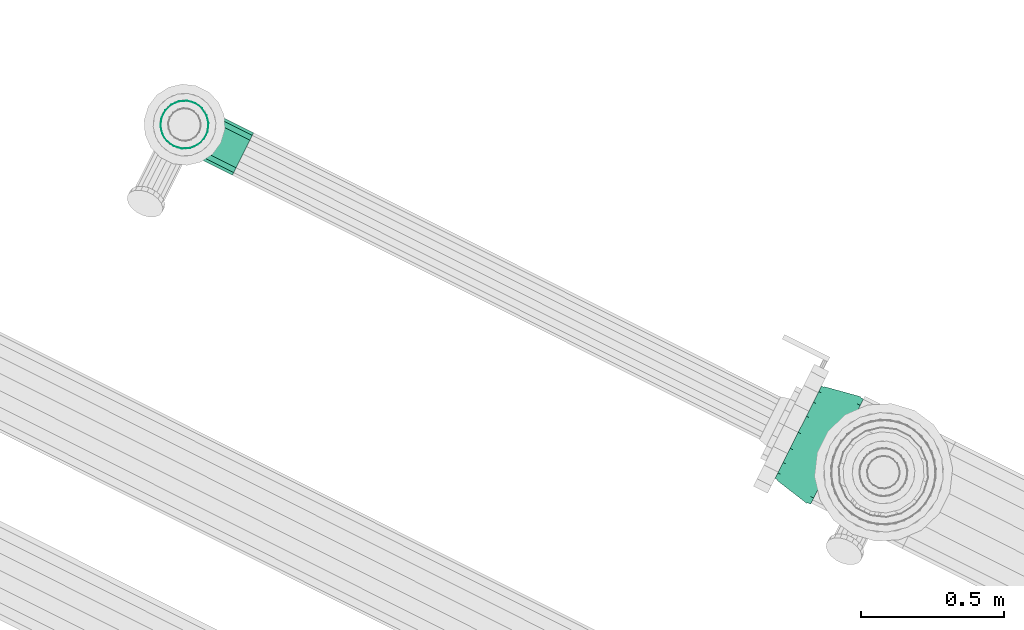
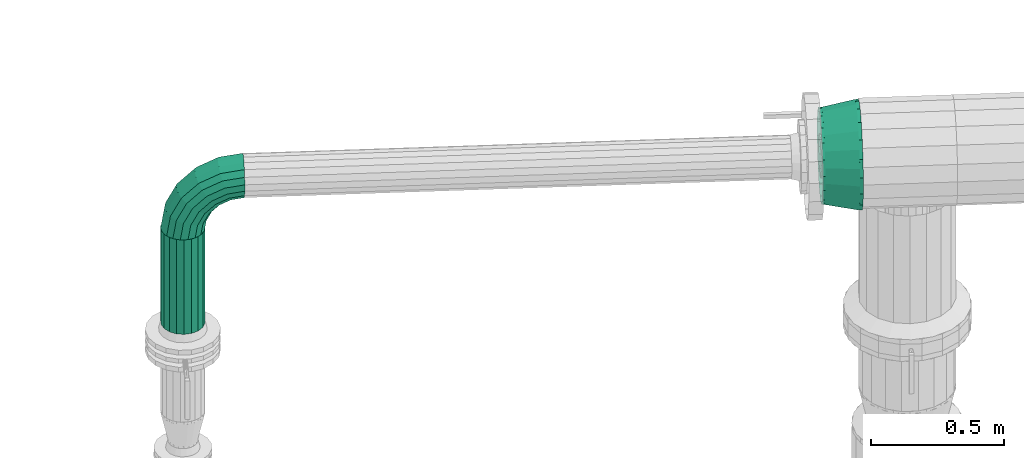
# One storey, part 68 of 152: 2 flow segments, 1 flow fitting.
"""IFC2X3 building model written with IfcOpenShell, lengths in metres."""

from ifc_helpers import new_model, si_unit, derived_unit, direction, frame, origin, place, context, subcontext, project, spatial, face_set, surface_model, source, transform, mapped, material, type_object, type_shapes, element, save


model = new_model("IFC2X3")

# Units and contexts
model_context = context("Model", 3, precision=5.2338327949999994e-05, world=origin(), true_north=direction((0.0, 1.0)))
body_context = subcontext(model_context, "Body", "Model", "MODEL_VIEW")
ifc_project = project(units=[si_unit("LENGTHUNIT", "METRE"), si_unit("AREAUNIT", "SQUARE_METRE"), si_unit("VOLUMEUNIT", "CUBIC_METRE"), si_unit("MASSUNIT", "GRAM", prefix="KILO"), si_unit("PLANEANGLEUNIT", "RADIAN"), derived_unit("THERMALTRANSMITTANCEUNIT", [(si_unit("MASSUNIT", "GRAM", prefix="KILO"), 1), (si_unit("THERMODYNAMICTEMPERATUREUNIT", "KELVIN"), -1), (si_unit("TIMEUNIT", "SECOND"), -3)])], contexts=[model_context])

# Site, building, storey
site_placement = place(None, frame((0.0, 0.0, 0.0), z_axis=(0.0, 0.0, 1.0), x_axis=(0.8939966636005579, -0.4480736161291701, 0.0)))
site = spatial("IfcSite", under=ifc_project, at=site_placement, Name="Default", CompositionType="ELEMENT")
building_placement = place(site_placement, origin())
building = spatial("IfcBuilding", under=site, at=building_placement, CompositionType="ELEMENT")
storey_placement = place(building_placement, frame((0.0, 0.0, 2.7499999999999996)))
storey = spatial("IfcBuildingStorey", under=building, at=storey_placement, Name="1. Obergeschoss", CompositionType="ELEMENT", Elevation=2.7499999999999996)

# Flow fitting
ifc_material = material(Name="IfcSurfaceStyle #1741")
distribution_element_type_1 = type_object("IfcDistributionElementType", Name="Übergangsstück 304753:Übergangsstück 304753", material=ifc_material)
shared_shape_1 = source(origin(), body_context, "Body", "SurfaceModel", [
    surface_model("IfcFaceBasedSurfaceModel", [(22.754853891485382, 8.451283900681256, 5.207147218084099), (22.754853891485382, 8.4225029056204, 5.202072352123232), (22.765313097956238, 8.4225029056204, 5.202072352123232), (22.765313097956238, 8.451283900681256, 5.207147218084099), (22.754853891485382, 8.397193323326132, 5.18745985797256), (22.765313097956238, 8.397193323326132, 5.18745985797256), (22.754853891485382, 8.378407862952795, 5.165072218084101), (22.765313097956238, 8.378407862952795, 5.165072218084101), (22.754853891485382, 8.368412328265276, 5.137609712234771), (22.765313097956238, 8.368412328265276, 5.137609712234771), (22.754853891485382, 8.368412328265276, 5.108384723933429), (22.765313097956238, 8.368412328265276, 5.108384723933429), (22.754853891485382, 8.378407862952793, 5.080922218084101), (22.765313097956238, 8.378407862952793, 5.080922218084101), (22.754853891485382, 8.397193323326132, 5.058534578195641), (22.765313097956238, 8.397193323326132, 5.058534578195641), (22.754853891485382, 8.422502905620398, 5.043922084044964), (22.765313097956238, 8.422502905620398, 5.043922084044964), (22.754853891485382, 8.451283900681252, 5.0388472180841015), (22.765313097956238, 8.451283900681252, 5.0388472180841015), (22.754853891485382, 8.480064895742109, 5.043922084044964), (22.765313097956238, 8.480064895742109, 5.043922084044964), (22.754853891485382, 8.505374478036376, 5.058534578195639), (22.765313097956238, 8.505374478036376, 5.058534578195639), (22.754853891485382, 8.524159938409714, 5.0809222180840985), (22.765313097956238, 8.524159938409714, 5.0809222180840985), (22.754853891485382, 8.53415547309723, 5.108384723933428), (22.765313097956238, 8.53415547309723, 5.108384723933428), (22.754853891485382, 8.53415547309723, 5.13760971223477), (22.765313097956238, 8.53415547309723, 5.13760971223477), (22.754853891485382, 8.524159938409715, 5.165072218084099), (22.765313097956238, 8.524159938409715, 5.165072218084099), (22.754853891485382, 8.505374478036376, 5.18745985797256), (22.765313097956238, 8.505374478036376, 5.18745985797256), (22.754853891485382, 8.48006489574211, 5.202072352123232), (22.765313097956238, 8.48006489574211, 5.202072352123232), (22.765313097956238, 8.367133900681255, 5.1229972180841), (22.765313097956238, 8.372208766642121, 5.094216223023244), (22.894250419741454, 8.348340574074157, 5.085528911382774), (22.894250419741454, 8.341733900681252, 5.122997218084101), (22.765313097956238, 8.386821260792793, 5.068906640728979), (22.894250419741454, 8.36736373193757, 5.052579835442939), (22.765313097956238, 8.409208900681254, 5.0501211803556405), (22.894250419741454, 8.396508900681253, 5.028124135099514), (22.765313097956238, 8.436671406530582, 5.040125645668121), (22.894250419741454, 8.43226074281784, 5.01511152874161), (22.765313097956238, 8.465896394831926, 5.040125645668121), (22.894250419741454, 8.470307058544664, 5.01511152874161), (22.765313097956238, 8.493358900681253, 5.0501211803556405), (22.894250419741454, 8.506058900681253, 5.028124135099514), (22.765313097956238, 8.515746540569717, 5.068906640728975), (22.894250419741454, 8.535204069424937, 5.052579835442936), (22.765313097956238, 8.530359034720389, 5.094216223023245), (22.894250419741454, 8.554227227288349, 5.085528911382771), (22.765313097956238, 8.535433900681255, 5.122997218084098), (22.894250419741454, 8.560833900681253, 5.122997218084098), (22.765313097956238, 8.530359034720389, 5.151778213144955), (22.894250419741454, 8.554227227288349, 5.160465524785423), (22.765313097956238, 8.515746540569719, 5.177087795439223), (22.894250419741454, 8.535204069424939, 5.193414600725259), (22.765313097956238, 8.493358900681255, 5.1958732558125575), (22.894250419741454, 8.506058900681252, 5.217870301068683), (22.765313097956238, 8.465896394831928, 5.205868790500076), (22.894250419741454, 8.470307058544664, 5.230882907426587), (22.765313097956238, 8.436671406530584, 5.205868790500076), (22.894250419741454, 8.432260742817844, 5.230882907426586), (22.765313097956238, 8.409208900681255, 5.1958732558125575), (22.894250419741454, 8.396508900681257, 5.2178703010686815), (22.765313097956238, 8.386821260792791, 5.177087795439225), (22.894250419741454, 8.36736373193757, 5.19341460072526), (22.765313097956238, 8.372208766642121, 5.151778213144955), (22.894250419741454, 8.348340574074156, 5.160465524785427), (22.894250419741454, 8.451283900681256, 5.232547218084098), (22.894250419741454, 8.41381559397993, 5.225940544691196), (22.906853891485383, 8.41381559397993, 5.225940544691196), (22.906853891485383, 8.451283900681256, 5.232547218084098), (22.894250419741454, 8.380866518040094, 5.206917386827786), (22.906853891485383, 8.380866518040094, 5.206917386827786), (22.894250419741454, 8.35641081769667, 5.177772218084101), (22.906853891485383, 8.35641081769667, 5.177772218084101), (22.894250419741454, 8.343398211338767, 5.142020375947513), (22.906853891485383, 8.343398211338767, 5.142020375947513), (22.894250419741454, 8.343398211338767, 5.103974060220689), (22.906853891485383, 8.343398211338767, 5.103974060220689), (22.894250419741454, 8.356410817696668, 5.0682222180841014), (22.906853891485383, 8.356410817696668, 5.0682222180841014), (22.894250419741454, 8.380866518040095, 5.039077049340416), (22.906853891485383, 8.380866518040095, 5.039077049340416), (22.894250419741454, 8.413815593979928, 5.020053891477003), (22.906853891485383, 8.413815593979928, 5.020053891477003), (22.894250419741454, 8.451283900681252, 5.013447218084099), (22.906853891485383, 8.451283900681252, 5.013447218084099), (22.894250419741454, 8.488752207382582, 5.020053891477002), (22.906853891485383, 8.488752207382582, 5.020053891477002), (22.894250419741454, 8.521701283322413, 5.039077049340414), (22.906853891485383, 8.521701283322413, 5.039077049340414), (22.894250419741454, 8.546156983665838, 5.0682222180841), (22.906853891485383, 8.546156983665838, 5.0682222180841), (22.894250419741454, 8.559169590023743, 5.103974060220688), (22.906853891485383, 8.559169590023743, 5.103974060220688), (22.894250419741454, 8.559169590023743, 5.142020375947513), (22.906853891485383, 8.559169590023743, 5.142020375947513), (22.894250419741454, 8.546156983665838, 5.177772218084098), (22.906853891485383, 8.546156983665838, 5.177772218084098), (22.894250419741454, 8.521701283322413, 5.206917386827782), (22.906853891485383, 8.521701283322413, 5.206917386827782), (22.894250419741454, 8.488752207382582, 5.225940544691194), (22.906853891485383, 8.488752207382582, 5.225940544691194), (22.754853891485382, 8.451283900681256, 5.307147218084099), (22.754853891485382, 8.388300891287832, 5.296041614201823), (22.765313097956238, 8.388300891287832, 5.296041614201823), (22.765313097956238, 8.451283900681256, 5.307147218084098), (22.754853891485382, 8.332914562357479, 5.264064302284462), (22.765313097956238, 8.332914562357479, 5.264064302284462), (22.754853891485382, 8.29180532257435, 5.215072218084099), (22.765313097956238, 8.29180532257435, 5.215072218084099), (22.754853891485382, 8.269931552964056, 5.154974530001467), (22.765313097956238, 8.269931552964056, 5.154974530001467), (22.754853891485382, 8.269931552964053, 5.091019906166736), (22.765313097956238, 8.269931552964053, 5.091019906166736), (22.754853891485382, 8.291805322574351, 5.030922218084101), (22.765313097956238, 8.291805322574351, 5.030922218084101), (22.754853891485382, 8.332914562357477, 4.98193013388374), (22.765313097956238, 8.332914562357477, 4.98193013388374), (22.754853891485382, 8.388300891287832, 4.949952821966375), (22.765313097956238, 8.388300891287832, 4.949952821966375), (22.754853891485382, 8.451283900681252, 4.938847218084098), (22.765313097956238, 8.451283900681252, 4.938847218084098), (22.754853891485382, 8.514266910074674, 4.949952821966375), (22.765313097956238, 8.514266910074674, 4.949952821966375), (22.754853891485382, 8.56965323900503, 4.981930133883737), (22.765313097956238, 8.56965323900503, 4.981930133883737), (22.754853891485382, 8.610762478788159, 5.030922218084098), (22.765313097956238, 8.610762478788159, 5.030922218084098), (22.754853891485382, 8.632636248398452, 5.091019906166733), (22.765313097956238, 8.632636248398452, 5.091019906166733), (22.754853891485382, 8.632636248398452, 5.154974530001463), (22.765313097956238, 8.632636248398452, 5.154974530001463), (22.754853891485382, 8.610762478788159, 5.2150722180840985), (22.765313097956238, 8.610762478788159, 5.2150722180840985), (22.754853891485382, 8.569653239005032, 5.264064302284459), (22.765313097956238, 8.569653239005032, 5.264064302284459), (22.754853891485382, 8.514266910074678, 5.2960416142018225), (22.765313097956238, 8.514266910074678, 5.2960416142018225), (22.765313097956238, 8.267133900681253, 5.1229972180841), (22.765313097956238, 8.27823950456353, 5.06001420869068), (22.894250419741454, 8.254371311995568, 5.051326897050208), (22.894250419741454, 8.241733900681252, 5.122997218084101), (22.765313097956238, 8.31021681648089, 5.004627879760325), (22.894250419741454, 8.29075928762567, 4.988301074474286), (22.765313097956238, 8.359208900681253, 4.963518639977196), (22.894250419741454, 8.346508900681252, 4.941521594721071), (22.765313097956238, 8.419306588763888, 4.9416448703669), (22.894250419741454, 8.414895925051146, 4.91663075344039), (22.765313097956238, 8.483261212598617, 4.9416448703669), (22.894250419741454, 8.487671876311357, 4.91663075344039), (22.765313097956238, 8.543358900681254, 4.963518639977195), (22.894250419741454, 8.556058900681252, 4.94152159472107), (22.765313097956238, 8.592350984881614, 5.004627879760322), (22.894250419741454, 8.611808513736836, 4.988301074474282), (22.765313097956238, 8.624328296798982, 5.060014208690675), (22.894250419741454, 8.64819648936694, 5.051326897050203), (22.765313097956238, 8.635433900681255, 5.122997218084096), (22.894250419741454, 8.660833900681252, 5.122997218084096), (22.765313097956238, 8.62432829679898, 5.185980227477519), (22.894250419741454, 8.64819648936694, 5.194667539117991), (22.765313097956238, 8.592350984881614, 5.241366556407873), (22.894250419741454, 8.611808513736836, 5.2576933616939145), (22.765313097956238, 8.543358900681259, 5.282475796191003), (22.894250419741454, 8.556058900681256, 5.304472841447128), (22.765313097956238, 8.483261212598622, 5.304349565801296), (22.894250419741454, 8.48767187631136, 5.329363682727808), (22.765313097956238, 8.41930658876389, 5.304349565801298), (22.894250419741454, 8.41489592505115, 5.3293636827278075), (22.765313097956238, 8.359208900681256, 5.2824757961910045), (22.894250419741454, 8.346508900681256, 5.3044728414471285), (22.765313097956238, 8.310216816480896, 5.2413665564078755), (22.894250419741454, 8.290759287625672, 5.257693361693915), (22.765313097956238, 8.27823950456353, 5.185980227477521), (22.894250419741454, 8.254371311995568, 5.194667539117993), (22.894250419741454, 8.451283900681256, 5.332547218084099), (22.894250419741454, 8.379613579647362, 5.319909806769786), (22.906853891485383, 8.379613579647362, 5.319909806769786), (22.906853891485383, 8.451283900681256, 5.332547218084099), (22.894250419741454, 8.316587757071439, 5.28352183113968), (22.906853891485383, 8.316587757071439, 5.28352183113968), (22.894250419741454, 8.269808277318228, 5.227772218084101), (22.906853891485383, 8.269808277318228, 5.227772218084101), (22.894250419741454, 8.244917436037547, 5.159385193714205), (22.906853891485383, 8.244917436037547, 5.159385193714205), (22.894250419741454, 8.244917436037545, 5.0866092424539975), (22.906853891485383, 8.244917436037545, 5.0866092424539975), (22.894250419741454, 8.269808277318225, 5.018222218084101), (22.906853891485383, 8.269808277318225, 5.018222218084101), (22.894250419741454, 8.316587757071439, 4.962472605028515), (22.906853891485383, 8.316587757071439, 4.962472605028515), (22.894250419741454, 8.37961357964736, 4.926084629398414), (22.906853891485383, 8.37961357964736, 4.926084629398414), (22.894250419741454, 8.451283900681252, 4.913447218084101), (22.906853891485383, 8.451283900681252, 4.913447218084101), (22.894250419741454, 8.522954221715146, 4.926084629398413), (22.906853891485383, 8.522954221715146, 4.926084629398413), (22.894250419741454, 8.585980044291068, 4.962472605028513), (22.906853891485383, 8.585980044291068, 4.962472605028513), (22.894250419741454, 8.632759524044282, 5.018222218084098), (22.906853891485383, 8.632759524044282, 5.018222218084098), (22.894250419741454, 8.657650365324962, 5.086609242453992), (22.906853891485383, 8.657650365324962, 5.086609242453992), (22.894250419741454, 8.657650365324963, 5.159385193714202), (22.906853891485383, 8.657650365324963, 5.159385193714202), (22.894250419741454, 8.632759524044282, 5.227772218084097), (22.906853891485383, 8.632759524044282, 5.227772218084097), (22.894250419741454, 8.585980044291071, 5.283521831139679), (22.906853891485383, 8.585980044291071, 5.283521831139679), (22.894250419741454, 8.522954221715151, 5.319909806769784), (22.906853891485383, 8.522954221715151, 5.319909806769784)], [face_set([[[0, 1, 2, 3]], [[1, 4, 5, 2]], [[4, 6, 7, 5]], [[6, 8, 9, 7]], [[8, 10, 11, 9]], [[10, 12, 13, 11]], [[12, 14, 15, 13]], [[14, 16, 17, 15]], [[16, 18, 19, 17]], [[18, 20, 21, 19]], [[20, 22, 23, 21]], [[22, 24, 25, 23]], [[24, 26, 27, 25]], [[26, 28, 29, 27]], [[28, 30, 31, 29]], [[30, 32, 33, 31]], [[32, 34, 35, 33]], [[34, 0, 3, 35]], [[36, 37, 38, 39]], [[37, 40, 41, 38]], [[40, 42, 43, 41]], [[42, 44, 45, 43]], [[44, 46, 47, 45]], [[46, 48, 49, 47]], [[48, 50, 51, 49]], [[50, 52, 53, 51]], [[52, 54, 55, 53]], [[54, 56, 57, 55]], [[56, 58, 59, 57]], [[58, 60, 61, 59]], [[60, 62, 63, 61]], [[62, 64, 65, 63]], [[64, 66, 67, 65]], [[66, 68, 69, 67]], [[68, 70, 71, 69]], [[70, 36, 39, 71]], [[72, 73, 74, 75]], [[73, 76, 77, 74]], [[76, 78, 79, 77]], [[78, 80, 81, 79]], [[80, 82, 83, 81]], [[82, 84, 85, 83]], [[84, 86, 87, 85]], [[86, 88, 89, 87]], [[88, 90, 91, 89]], [[90, 92, 93, 91]], [[92, 94, 95, 93]], [[94, 96, 97, 95]], [[96, 98, 99, 97]], [[98, 100, 101, 99]], [[100, 102, 103, 101]], [[102, 104, 105, 103]], [[104, 106, 107, 105]], [[106, 72, 75, 107]], [[108, 109, 110, 111]], [[109, 112, 113, 110]], [[112, 114, 115, 113]], [[114, 116, 117, 115]], [[116, 118, 119, 117]], [[118, 120, 121, 119]], [[120, 122, 123, 121]], [[122, 124, 125, 123]], [[124, 126, 127, 125]], [[126, 128, 129, 127]], [[128, 130, 131, 129]], [[130, 132, 133, 131]], [[132, 134, 135, 133]], [[134, 136, 137, 135]], [[136, 138, 139, 137]], [[138, 140, 141, 139]], [[140, 142, 143, 141]], [[142, 108, 111, 143]], [[144, 145, 146, 147]], [[145, 148, 149, 146]], [[148, 150, 151, 149]], [[150, 152, 153, 151]], [[152, 154, 155, 153]], [[154, 156, 157, 155]], [[156, 158, 159, 157]], [[158, 160, 161, 159]], [[160, 162, 163, 161]], [[162, 164, 165, 163]], [[164, 166, 167, 165]], [[166, 168, 169, 167]], [[168, 170, 171, 169]], [[170, 172, 173, 171]], [[172, 174, 175, 173]], [[174, 176, 177, 175]], [[176, 178, 179, 177]], [[178, 144, 147, 179]], [[180, 181, 182, 183]], [[181, 184, 185, 182]], [[184, 186, 187, 185]], [[186, 188, 189, 187]], [[188, 190, 191, 189]], [[190, 192, 193, 191]], [[192, 194, 195, 193]], [[194, 196, 197, 195]], [[196, 198, 199, 197]], [[198, 200, 201, 199]], [[200, 202, 203, 201]], [[202, 204, 205, 203]], [[204, 206, 207, 205]], [[206, 208, 209, 207]], [[208, 210, 211, 209]], [[210, 212, 213, 211]], [[212, 214, 215, 213]], [[214, 180, 183, 215]]])]),
])
type_shapes(distribution_element_type_1, [shared_shape_1])
flow_fitting_placement = place(storey_placement, frame((0.0, 0.0, -2.7499999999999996)))
element("IfcFlowFitting", 1, at=flow_fitting_placement, inside=storey, type_object=distribution_element_type_1, material=ifc_material, Name="Übergangsstück", ObjectType="Übergangsstück", context=body_context, shape_type="MappedRepresentation", body=[
    mapped(shared_shape_1, transform((0.0, 0.0, 0.0), scale=1.0)),
])

# Flow segments
distribution_element_type_2 = type_object("IfcDistributionElementType", Name="Rohrbogen 320952:Rohrbogen 320952", material=ifc_material)
shared_shape_2 = source(origin(), body_context, "Body", "SurfaceModel", [
    surface_model("IfcFaceBasedSurfaceModel", [(20.266830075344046, 8.451283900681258, 4.893997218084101), (20.271904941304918, 8.422502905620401, 4.893997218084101), (20.286983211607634, 8.422502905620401, 4.989197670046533), (20.282156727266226, 8.451283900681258, 4.990765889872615), (20.330742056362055, 8.422502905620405, 5.075079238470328), (20.326636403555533, 8.451283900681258, 5.078062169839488), (20.39889805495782, 8.42250290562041, 5.143235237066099), (20.395915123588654, 8.451283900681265, 5.147340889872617), (20.484779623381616, 8.422502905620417, 5.186994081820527), (20.483211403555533, 8.451283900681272, 5.191820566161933), (20.57998007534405, 8.422502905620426, 5.20207235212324), (20.579980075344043, 8.45128390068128, 5.207147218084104), (20.2865174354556, 8.397193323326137, 4.8939972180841), (20.30088051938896, 8.397193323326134, 4.984682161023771), (20.342563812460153, 8.397193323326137, 5.0664902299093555), (20.4074870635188, 8.39719332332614, 5.131413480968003), (20.489295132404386, 8.39719332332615, 5.173096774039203), (20.57998007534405, 8.397193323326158, 5.187459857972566), (20.308905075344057, 8.378407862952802, 4.8939972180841), (20.322172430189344, 8.378407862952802, 4.9777639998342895), (20.360675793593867, 8.3784078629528, 5.053331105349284), (20.42064618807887, 8.378407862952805, 5.1133014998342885), (20.49621329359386, 8.378407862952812, 5.151804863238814), (20.579980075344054, 8.37840786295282, 5.165072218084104), (20.336367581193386, 8.368412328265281, 4.8939972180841), (20.348290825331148, 8.368412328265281, 4.969277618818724), (20.382893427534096, 8.368412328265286, 5.037189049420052), (20.43678824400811, 8.36841232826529, 5.0910838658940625), (20.504699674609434, 8.368412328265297, 5.125686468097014), (20.579980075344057, 8.368412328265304, 5.137609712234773), (20.36559256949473, 8.368412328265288, 4.893997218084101), (20.376085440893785, 8.368412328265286, 4.960246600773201), (20.40653693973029, 8.368412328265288, 5.020011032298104), (20.453966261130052, 8.368412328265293, 5.067440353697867), (20.513730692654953, 8.368412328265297, 5.097891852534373), (20.579980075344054, 8.368412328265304, 5.108384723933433), (20.393055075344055, 8.378407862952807, 4.893997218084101), (20.402203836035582, 8.378407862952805, 4.951760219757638), (20.428754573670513, 8.378407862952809, 5.003868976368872), (20.470108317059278, 8.37840786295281, 5.045222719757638), (20.522217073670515, 8.378407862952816, 5.071773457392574), (20.579980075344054, 8.378407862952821, 5.080922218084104), (20.415442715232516, 8.397193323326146, 4.893997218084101), (20.42349574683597, 8.397193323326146, 4.944842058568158), (20.44686655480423, 8.39719332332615, 4.990709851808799), (20.483267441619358, 8.397193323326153, 5.027110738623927), (20.52913523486, 8.397193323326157, 5.050481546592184), (20.579980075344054, 8.397193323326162, 5.0585345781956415), (20.430055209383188, 8.422502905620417, 4.893997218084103), (20.437393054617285, 8.422502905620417, 4.940326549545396), (20.458688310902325, 8.422502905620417, 4.9821208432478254), (20.491856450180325, 8.42250290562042, 5.015288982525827), (20.533650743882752, 8.422502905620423, 5.036584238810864), (20.57998007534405, 8.42250290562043, 5.043922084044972), (20.435130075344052, 8.451283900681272, 4.893997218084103), (20.442219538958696, 8.451283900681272, 4.938758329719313), (20.46279396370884, 8.451283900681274, 4.979137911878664), (20.494839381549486, 8.451283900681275, 5.011183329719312), (20.53521896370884, 8.451283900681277, 5.031757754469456), (20.579980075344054, 8.451283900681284, 5.038847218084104), (20.430055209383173, 8.480064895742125, 4.893997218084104), (20.437393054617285, 8.480064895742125, 4.9403265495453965), (20.458688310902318, 8.48006489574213, 4.9821208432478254), (20.49185645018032, 8.480064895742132, 5.015288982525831), (20.53365074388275, 8.480064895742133, 5.036584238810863), (20.579980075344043, 8.480064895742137, 5.043922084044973), (20.41544271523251, 8.505374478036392, 4.893997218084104), (20.42349574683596, 8.505374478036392, 4.944842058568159), (20.446866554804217, 8.505374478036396, 4.9907098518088), (20.48326744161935, 8.505374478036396, 5.027110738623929), (20.529135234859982, 8.505374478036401, 5.050481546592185), (20.579980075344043, 8.505374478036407, 5.058534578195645), (20.393055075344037, 8.524159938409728, 4.893997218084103), (20.402203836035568, 8.524159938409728, 4.951760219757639), (20.428754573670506, 8.524159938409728, 5.003868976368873), (20.47010831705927, 8.524159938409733, 5.045222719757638), (20.522217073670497, 8.524159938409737, 5.0717734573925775), (20.579980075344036, 8.524159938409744, 5.080922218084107), (20.365592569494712, 8.534155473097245, 4.893997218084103), (20.376085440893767, 8.534155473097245, 4.960246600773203), (20.40653693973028, 8.534155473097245, 5.020011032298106), (20.453966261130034, 8.53415547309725, 5.067440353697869), (20.513730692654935, 8.534155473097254, 5.097891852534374), (20.579980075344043, 8.534155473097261, 5.108384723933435), (20.33636758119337, 8.534155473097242, 4.893997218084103), (20.348290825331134, 8.53415547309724, 4.969277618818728), (20.38289342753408, 8.534155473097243, 5.037189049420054), (20.436788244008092, 8.534155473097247, 5.091083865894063), (20.50469967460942, 8.53415547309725, 5.125686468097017), (20.579980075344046, 8.53415547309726, 5.137609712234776), (20.30890507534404, 8.524159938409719, 4.8939972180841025), (20.322172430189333, 8.524159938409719, 4.977763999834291), (20.360675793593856, 8.524159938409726, 5.053331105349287), (20.42064618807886, 8.524159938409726, 5.113301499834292), (20.496213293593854, 8.524159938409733, 5.151804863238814), (20.579980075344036, 8.524159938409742, 5.165072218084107), (20.28651743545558, 8.505374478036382, 4.8939972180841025), (20.300880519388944, 8.50537447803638, 4.9846821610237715), (20.342563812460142, 8.505374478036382, 5.066490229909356), (20.407487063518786, 8.505374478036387, 5.131413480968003), (20.489295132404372, 8.505374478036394, 5.173096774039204), (20.579980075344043, 8.505374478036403, 5.187459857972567), (20.271904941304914, 8.480064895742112, 4.893997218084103), (20.286983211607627, 8.48006489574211, 4.989197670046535), (20.330742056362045, 8.480064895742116, 5.075079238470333), (20.398898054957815, 8.480064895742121, 5.143235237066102), (20.484779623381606, 8.480064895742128, 5.186994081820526), (20.579980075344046, 8.480064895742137, 5.202072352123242)], [face_set([[[0, 1, 2, 3]], [[3, 2, 4, 5]], [[5, 4, 6, 7]], [[7, 6, 8, 9]], [[9, 8, 10, 11]], [[1, 12, 13, 2]], [[2, 13, 14, 4]], [[4, 14, 15, 6]], [[6, 15, 16, 8]], [[8, 16, 17, 10]], [[12, 18, 19, 13]], [[13, 19, 20, 14]], [[14, 20, 21, 15]], [[15, 21, 22, 16]], [[16, 22, 23, 17]], [[18, 24, 25, 19]], [[19, 25, 26, 20]], [[20, 26, 27, 21]], [[21, 27, 28, 22]], [[22, 28, 29, 23]], [[24, 30, 31, 25]], [[25, 31, 32, 26]], [[26, 32, 33, 27]], [[27, 33, 34, 28]], [[28, 34, 35, 29]], [[30, 36, 37, 31]], [[31, 37, 38, 32]], [[32, 38, 39, 33]], [[33, 39, 40, 34]], [[34, 40, 41, 35]], [[36, 42, 43, 37]], [[37, 43, 44, 38]], [[38, 44, 45, 39]], [[39, 45, 46, 40]], [[40, 46, 47, 41]], [[42, 48, 49, 43]], [[43, 49, 50, 44]], [[44, 50, 51, 45]], [[45, 51, 52, 46]], [[46, 52, 53, 47]], [[48, 54, 55, 49]], [[49, 55, 56, 50]], [[50, 56, 57, 51]], [[51, 57, 58, 52]], [[52, 58, 59, 53]], [[54, 60, 61, 55]], [[55, 61, 62, 56]], [[56, 62, 63, 57]], [[57, 63, 64, 58]], [[58, 64, 65, 59]], [[60, 66, 67, 61]], [[61, 67, 68, 62]], [[62, 68, 69, 63]], [[63, 69, 70, 64]], [[64, 70, 71, 65]], [[66, 72, 73, 67]], [[67, 73, 74, 68]], [[68, 74, 75, 69]], [[69, 75, 76, 70]], [[70, 76, 77, 71]], [[72, 78, 79, 73]], [[73, 79, 80, 74]], [[74, 80, 81, 75]], [[75, 81, 82, 76]], [[76, 82, 83, 77]], [[78, 84, 85, 79]], [[79, 85, 86, 80]], [[80, 86, 87, 81]], [[81, 87, 88, 82]], [[82, 88, 89, 83]], [[84, 90, 91, 85]], [[85, 91, 92, 86]], [[86, 92, 93, 87]], [[87, 93, 94, 88]], [[88, 94, 95, 89]], [[90, 96, 97, 91]], [[91, 97, 98, 92]], [[92, 98, 99, 93]], [[93, 99, 100, 94]], [[94, 100, 101, 95]], [[96, 102, 103, 97]], [[97, 103, 104, 98]], [[98, 104, 105, 99]], [[99, 105, 106, 100]], [[100, 106, 107, 101]], [[102, 0, 3, 103]], [[103, 3, 5, 104]], [[104, 5, 7, 105]], [[105, 7, 9, 106]], [[106, 9, 11, 107]]])]),
])
type_shapes(distribution_element_type_2, [shared_shape_2])
flow_segment_1_placement = place(storey_placement, frame((0.0, 0.0, -2.7499999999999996)))
element("IfcFlowSegment", 2, at=flow_segment_1_placement, inside=storey, type_object=distribution_element_type_2, material=ifc_material, Name="Rohrbogen", ObjectType="Rohrbogen", context=body_context, shape_type="MappedRepresentation", body=[
    mapped(shared_shape_2, transform((0.0, 0.0, 0.0), scale=1.0)),
])
distribution_element_type_3 = type_object("IfcDistributionElementType", Name="Stahlrohr nach DIN 2448 347160:Stahlrohr nach DIN 2448 347160", material=ifc_material)
shared_shape_3 = source(origin(), body_context, "Body", "SurfaceModel", [
    surface_model("IfcFaceBasedSurfaceModel", [(20.350980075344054, 8.367133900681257, 4.8939972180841), (20.322199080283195, 8.372208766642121, 4.8939972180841), (20.32219908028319, 8.372208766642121, 4.460183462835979), (20.35098007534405, 8.367133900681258, 4.460183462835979), (20.29688949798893, 8.386821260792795, 4.8939972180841), (20.296889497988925, 8.386821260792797, 4.460183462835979), (20.278104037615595, 8.409208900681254, 4.8939972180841), (20.278104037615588, 8.409208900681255, 4.460183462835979), (20.268108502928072, 8.436671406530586, 4.8939972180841), (20.268108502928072, 8.436671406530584, 4.460183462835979), (20.268108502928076, 8.46589639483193, 4.8939972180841), (20.268108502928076, 8.465896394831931, 4.460183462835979), (20.278104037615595, 8.493358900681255, 4.8939972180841), (20.278104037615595, 8.49335890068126, 4.460183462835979), (20.29688949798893, 8.515746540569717, 4.8939972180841), (20.29688949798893, 8.51574654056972, 4.460183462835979), (20.322199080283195, 8.530359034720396, 4.8939972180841), (20.3221990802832, 8.530359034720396, 4.460183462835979), (20.350980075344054, 8.535433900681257, 4.893997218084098), (20.350980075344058, 8.535433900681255, 4.460183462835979), (20.37976107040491, 8.530359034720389, 4.8939972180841), (20.37976107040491, 8.530359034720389, 4.460183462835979), (20.405070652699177, 8.515746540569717, 4.8939972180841), (20.405070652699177, 8.515746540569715, 4.460183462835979), (20.42385611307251, 8.493358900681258, 4.8939972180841), (20.42385611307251, 8.493358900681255, 4.460183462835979), (20.43385164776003, 8.46589639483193, 4.8939972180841), (20.43385164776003, 8.465896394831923, 4.460183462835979), (20.43385164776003, 8.436671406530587, 4.8939972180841), (20.43385164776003, 8.436671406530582, 4.460183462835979), (20.42385611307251, 8.409208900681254, 4.8939972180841), (20.42385611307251, 8.40920890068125, 4.460183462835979), (20.405070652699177, 8.386821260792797, 4.8939972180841), (20.40507065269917, 8.386821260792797, 4.460183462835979), (20.379761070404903, 8.372208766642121, 4.8939972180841), (20.3797610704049, 8.37220876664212, 4.460183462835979)], [face_set([[[0, 1, 2, 3]], [[1, 4, 5, 2]], [[4, 6, 7, 5]], [[6, 8, 9, 7]], [[8, 10, 11, 9]], [[10, 12, 13, 11]], [[12, 14, 15, 13]], [[14, 16, 17, 15]], [[16, 18, 19, 17]], [[18, 20, 21, 19]], [[20, 22, 23, 21]], [[22, 24, 25, 23]], [[24, 26, 27, 25]], [[26, 28, 29, 27]], [[28, 30, 31, 29]], [[30, 32, 33, 31]], [[32, 34, 35, 33]], [[34, 0, 3, 35]]])]),
])
type_shapes(distribution_element_type_3, [shared_shape_3])
flow_segment_2_placement = place(storey_placement, frame((0.0, 0.0, -2.7499999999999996)))
element("IfcFlowSegment", 3, at=flow_segment_2_placement, inside=storey, type_object=distribution_element_type_3, material=ifc_material, Name="Stahlrohr nach DIN 2448", ObjectType="Stahlrohr nach DIN 2448", context=body_context, shape_type="MappedRepresentation", body=[
    mapped(shared_shape_3, transform((0.0, 0.0, 0.0), scale=1.0)),
])

save(model, "model.ifc")
